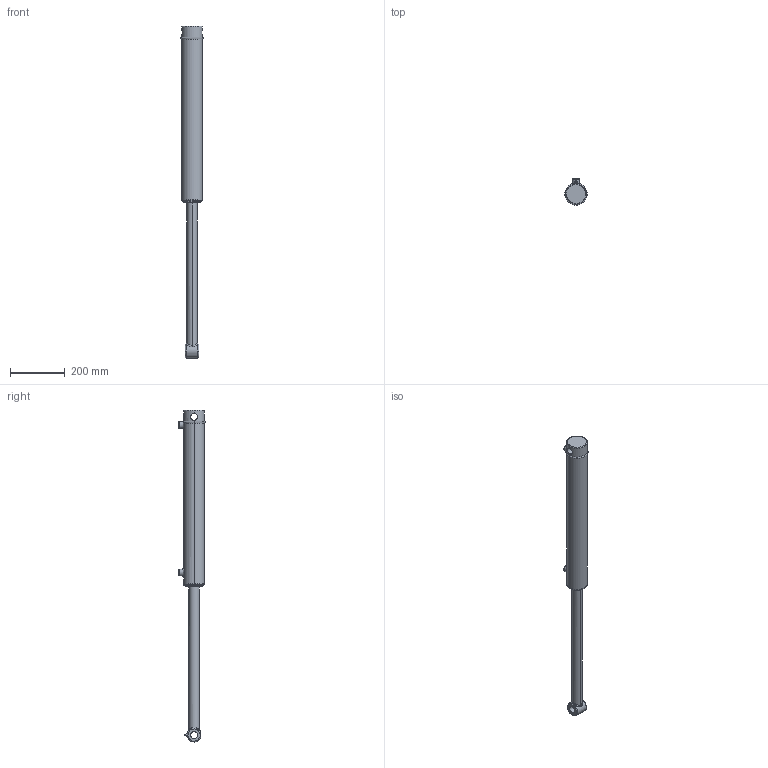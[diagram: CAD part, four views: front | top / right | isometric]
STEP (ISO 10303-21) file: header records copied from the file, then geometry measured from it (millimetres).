
FILE_DESCRIPTION (( 'STEP AP203' ), '1' );
FILE_NAME ('SB-C250150x508 (20) extended.STEP', '2014-11-19T01:51:41', ( '' ), ( '' ), 'SwSTEP 2.0', 'SolidWorks 2014', '' );
FILE_SCHEMA (( 'CONFIG_CONTROL_DESIGN' ));
Length unit declared in the file: millimetre
Products named in the file (7): 18 NPT GREASE NIPPLE; SPARE 20; SB-C250150x508 (20) extended; SB-C250150x508 (20) BODY; SB-C250250X508 (20) BODY; 20 SPARE; 2.5 INCH CIRCLIP
Assembly tree (6 placements, depth 3):
  SB-C250150x508 (20) extended
    SB-C250150x508 (20) BODY
      SB-C250250X508 (20) BODY
      2.5 INCH CIRCLIP
    SPARE 20
      20 SPARE
      18 NPT GREASE NIPPLE
Bounding box: 82.2 x 97.2 x 1217.4 mm (x, y, z)
Volume: 3377748.3 mm3; surface area: 294161.6 mm2
Topology: 4 solids, 4 shells, 135 faces, 315 edges, 197 vertices
Faces by surface type: cylinder 51, plane 29, cone 22, bspline 19, torus 12, sphere 2
Entity records: 10875 total; most frequent: CARTESIAN_POINT 7141, DIRECTION 640, ORIENTED_EDGE 622, EDGE_CURVE 311, AXIS2_PLACEMENT_3D 271, VERTEX_POINT 197, EDGE_LOOP 160, CIRCLE 144
